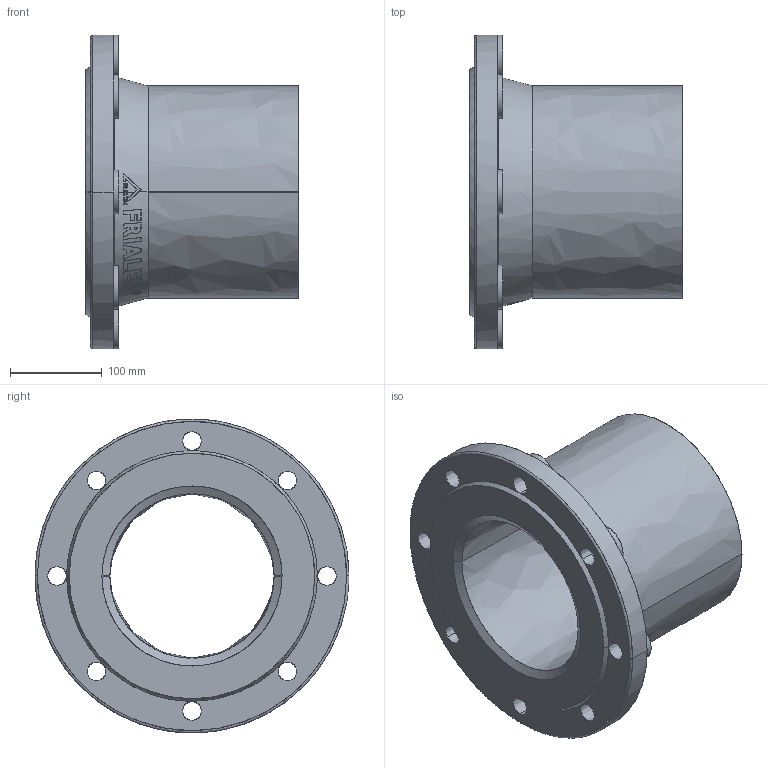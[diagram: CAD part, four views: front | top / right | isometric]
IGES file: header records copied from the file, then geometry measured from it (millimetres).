
Start section:  PTC IGES file: efl_d225_dn200_01.igs
Global section: file name: efl_d225_dn200_01.igs; native system: Pro/ENGINEER by Parametric Technology Corporation; preprocessor: 2011490; author: mtunjic; organization: Unknown; date: 20130819.133618; units: millimetre
Bounding box: 232 x 343 x 343 mm (x, y, z)
Surface area: 468197 mm2 (no closed solid volume)
Topology: 0 solids, 0 shells, 422 faces, 2102 edges, 2102 vertices
Faces by surface type: bspline 422
